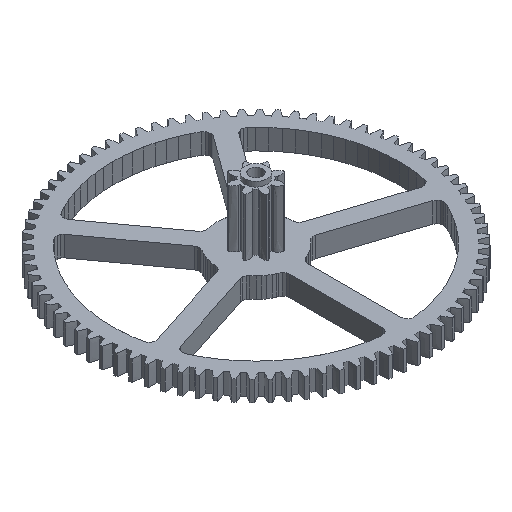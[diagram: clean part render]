
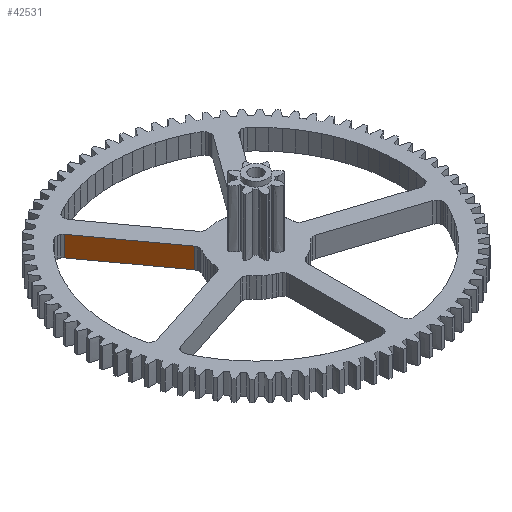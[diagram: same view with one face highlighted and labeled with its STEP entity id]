
A CAD part, isometric view. The second image highlights one B-rep face of the part: STEP entity #42531.
In plain terms, the highlighted planar face has unit normal (-0.809, -0.588, 0).
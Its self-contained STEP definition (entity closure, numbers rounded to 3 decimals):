
#84 = PLANE('',#85);
#85 = AXIS2_PLACEMENT_3D('',#86,#87,#88);
#86 = CARTESIAN_POINT('',(0.,0.,
    0.));
#87 = DIRECTION('',(0.,0.,-1.));
#88 = DIRECTION('',(1.,0.,0.));
#148 = PLANE('',#149);
#149 = AXIS2_PLACEMENT_3D('',#150,#151,#152);
#150 = CARTESIAN_POINT('',(0.,0.,
    5.));
#151 = DIRECTION('',(0.,0.,-1.));
#152 = DIRECTION('',(1.,0.,0.));
#13991 = VERTEX_POINT('',#13992);
#13992 = CARTESIAN_POINT('',(-7.938,7.098,5.));
#14006 = PLANE('',#14007);
#14007 = AXIS2_PLACEMENT_3D('',#14008,#14009,#14010);
#14008 = CARTESIAN_POINT('',(-7.672,6.511,6.));
#14009 = DIRECTION('',(0.911,0.413,0.
    ));
#14010 = DIRECTION('',(-0.413,0.911,
    0.));
#14018 = EDGE_CURVE('',#14019,#13991,#14021,.T.);
#14019 = VERTEX_POINT('',#14020);
#14020 = CARTESIAN_POINT('',(-21.311,25.504,5.)
  );
#14021 = SURFACE_CURVE('',#14022,(#14026,#14033),.PCURVE_S1.);
#14022 = LINE('',#14023,#14024);
#14023 = CARTESIAN_POINT('',(-4.879,2.888,5.));
#14024 = VECTOR('',#14025,1.);
#14025 = DIRECTION('',(0.588,-0.809,0.
    ));
#14026 = PCURVE('',#148,#14027);
#14027 = DEFINITIONAL_REPRESENTATION('',(#14028),#14032);
#14028 = LINE('',#14029,#14030);
#14029 = CARTESIAN_POINT('',(-4.879,-2.888));
#14030 = VECTOR('',#14031,1.);
#14031 = DIRECTION('',(0.588,0.809));
#14032 = ( GEOMETRIC_REPRESENTATION_CONTEXT(2) 
PARAMETRIC_REPRESENTATION_CONTEXT() REPRESENTATION_CONTEXT('2D SPACE',''
  ) );
#14033 = PCURVE('',#14034,#14039);
#14034 = PLANE('',#14035);
#14035 = AXIS2_PLACEMENT_3D('',#14036,#14037,#14038);
#14036 = CARTESIAN_POINT('',(-7.938,7.098,6.));
#14037 = DIRECTION('',(0.809,0.588,0.)
  );
#14038 = DIRECTION('',(-0.588,0.809,
    0.));
#14039 = DEFINITIONAL_REPRESENTATION('',(#14040),#14044);
#14040 = LINE('',#14041,#14042);
#14041 = CARTESIAN_POINT('',(-5.204,-1.));
#14042 = VECTOR('',#14043,1.);
#14043 = DIRECTION('',(-1.,0.));
#14044 = ( GEOMETRIC_REPRESENTATION_CONTEXT(2) 
PARAMETRIC_REPRESENTATION_CONTEXT() REPRESENTATION_CONTEXT('2D SPACE',''
  ) );
#14062 = PLANE('',#14063);
#14063 = AXIS2_PLACEMENT_3D('',#14064,#14065,#14066);
#14064 = CARTESIAN_POINT('',(-21.311,25.504,6.)
  );
#14065 = DIRECTION('',(0.667,0.745,0.
    ));
#14066 = DIRECTION('',(-0.745,0.667,
    0.));
#29737 = VERTEX_POINT('',#29738);
#29738 = CARTESIAN_POINT('',(-7.938,7.098,
    0.));
#29759 = EDGE_CURVE('',#29760,#29737,#29762,.T.);
#29760 = VERTEX_POINT('',#29761);
#29761 = CARTESIAN_POINT('',(-21.311,25.504,
    0.));
#29762 = SURFACE_CURVE('',#29763,(#29767,#29774),.PCURVE_S1.);
#29763 = LINE('',#29764,#29765);
#29764 = CARTESIAN_POINT('',(-4.879,2.888,
    0.));
#29765 = VECTOR('',#29766,1.);
#29766 = DIRECTION('',(0.588,-0.809,0.
    ));
#29767 = PCURVE('',#84,#29768);
#29768 = DEFINITIONAL_REPRESENTATION('',(#29769),#29773);
#29769 = LINE('',#29770,#29771);
#29770 = CARTESIAN_POINT('',(-4.879,-2.888));
#29771 = VECTOR('',#29772,1.);
#29772 = DIRECTION('',(0.588,0.809));
#29773 = ( GEOMETRIC_REPRESENTATION_CONTEXT(2) 
PARAMETRIC_REPRESENTATION_CONTEXT() REPRESENTATION_CONTEXT('2D SPACE',''
  ) );
#29774 = PCURVE('',#14034,#29775);
#29775 = DEFINITIONAL_REPRESENTATION('',(#29776),#29780);
#29776 = LINE('',#29777,#29778);
#29777 = CARTESIAN_POINT('',(-5.204,-6.));
#29778 = VECTOR('',#29779,1.);
#29779 = DIRECTION('',(-1.,0.));
#29780 = ( GEOMETRIC_REPRESENTATION_CONTEXT(2) 
PARAMETRIC_REPRESENTATION_CONTEXT() REPRESENTATION_CONTEXT('2D SPACE',''
  ) );
#42482 = EDGE_CURVE('',#14019,#29760,#42483,.T.);
#42483 = SURFACE_CURVE('',#42484,(#42488,#42495),.PCURVE_S1.);
#42484 = LINE('',#42485,#42486);
#42485 = CARTESIAN_POINT('',(-21.311,25.504,6.)
  );
#42486 = VECTOR('',#42487,1.);
#42487 = DIRECTION('',(0.,0.,-1.));
#42488 = PCURVE('',#14062,#42489);
#42489 = DEFINITIONAL_REPRESENTATION('',(#42490),#42494);
#42490 = LINE('',#42491,#42492);
#42491 = CARTESIAN_POINT('',(0.,0.));
#42492 = VECTOR('',#42493,1.);
#42493 = DIRECTION('',(0.,-1.));
#42494 = ( GEOMETRIC_REPRESENTATION_CONTEXT(2) 
PARAMETRIC_REPRESENTATION_CONTEXT() REPRESENTATION_CONTEXT('2D SPACE',''
  ) );
#42495 = PCURVE('',#14034,#42496);
#42496 = DEFINITIONAL_REPRESENTATION('',(#42497),#42501);
#42497 = LINE('',#42498,#42499);
#42498 = CARTESIAN_POINT('',(22.751,0.));
#42499 = VECTOR('',#42500,1.);
#42500 = DIRECTION('',(0.,-1.));
#42501 = ( GEOMETRIC_REPRESENTATION_CONTEXT(2) 
PARAMETRIC_REPRESENTATION_CONTEXT() REPRESENTATION_CONTEXT('2D SPACE',''
  ) );
#42531 = ADVANCED_FACE('',(#42532),#14034,.F.);
#42532 = FACE_BOUND('',#42533,.F.);
#42533 = EDGE_LOOP('',(#42534,#42535,#42556,#42557));
#42534 = ORIENTED_EDGE('',*,*,#14018,.T.);
#42535 = ORIENTED_EDGE('',*,*,#42536,.T.);
#42536 = EDGE_CURVE('',#13991,#29737,#42537,.T.);
#42537 = SURFACE_CURVE('',#42538,(#42542,#42549),.PCURVE_S1.);
#42538 = LINE('',#42539,#42540);
#42539 = CARTESIAN_POINT('',(-7.938,7.098,6.));
#42540 = VECTOR('',#42541,1.);
#42541 = DIRECTION('',(0.,0.,-1.));
#42542 = PCURVE('',#14034,#42543);
#42543 = DEFINITIONAL_REPRESENTATION('',(#42544),#42548);
#42544 = LINE('',#42545,#42546);
#42545 = CARTESIAN_POINT('',(0.,0.));
#42546 = VECTOR('',#42547,1.);
#42547 = DIRECTION('',(0.,-1.));
#42548 = ( GEOMETRIC_REPRESENTATION_CONTEXT(2) 
PARAMETRIC_REPRESENTATION_CONTEXT() REPRESENTATION_CONTEXT('2D SPACE',''
  ) );
#42549 = PCURVE('',#14006,#42550);
#42550 = DEFINITIONAL_REPRESENTATION('',(#42551),#42555);
#42551 = LINE('',#42552,#42553);
#42552 = CARTESIAN_POINT('',(0.645,0.));
#42553 = VECTOR('',#42554,1.);
#42554 = DIRECTION('',(0.,-1.));
#42555 = ( GEOMETRIC_REPRESENTATION_CONTEXT(2) 
PARAMETRIC_REPRESENTATION_CONTEXT() REPRESENTATION_CONTEXT('2D SPACE',''
  ) );
#42556 = ORIENTED_EDGE('',*,*,#29759,.F.);
#42557 = ORIENTED_EDGE('',*,*,#42482,.F.);
